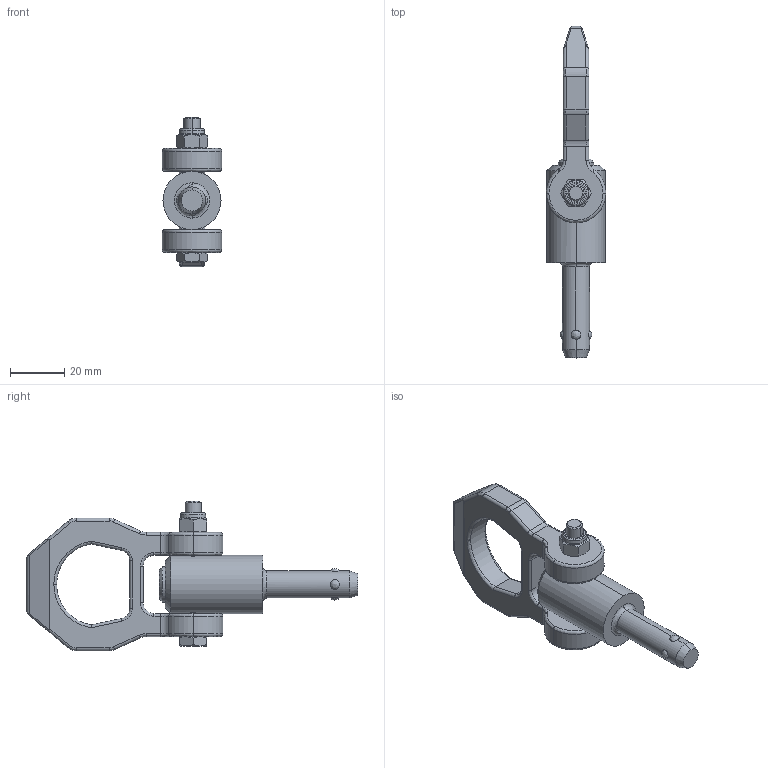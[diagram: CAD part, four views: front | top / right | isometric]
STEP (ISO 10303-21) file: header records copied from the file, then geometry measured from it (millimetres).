
FILE_DESCRIPTION (( 'STEP AP214' ), '1' );
FILE_NAME ('1130-10-25-NI.step', '2023-05-11T09:32:16', ( '' ), ( '' ), 'SwSTEP 2.0', 'SolidWorks 2022', '' );
FILE_SCHEMA (( 'AUTOMOTIVE_DESIGN' ));
Length unit declared in the file: millimetre
Products named in the file (3): Kopie von bolzen1^WB1130_NI_10-25-NI; 1130-10-25-NI; Kopie von ring2^WB1130_NI
Assembly tree (2 placements, depth 2):
  1130-10-25-NI
    Kopie von bolzen1^WB1130_NI_10-25-NI
    Kopie von ring2^WB1130_NI
Bounding box: 22 x 122.7 x 55.25 mm (x, y, z)
Volume: 34848.9 mm3; surface area: 12510.4 mm2
Topology: 2 solids, 2 shells, 244 faces, 607 edges, 375 vertices
Faces by surface type: plane 83, cylinder 77, bspline 54, cone 26, torus 4
Entity records: 9672 total; most frequent: CARTESIAN_POINT 4372, ORIENTED_EDGE 1214, DIRECTION 887, EDGE_CURVE 607, VERTEX_POINT 375, AXIS2_PLACEMENT_3D 329, EDGE_LOOP 258, ADVANCED_FACE 244
